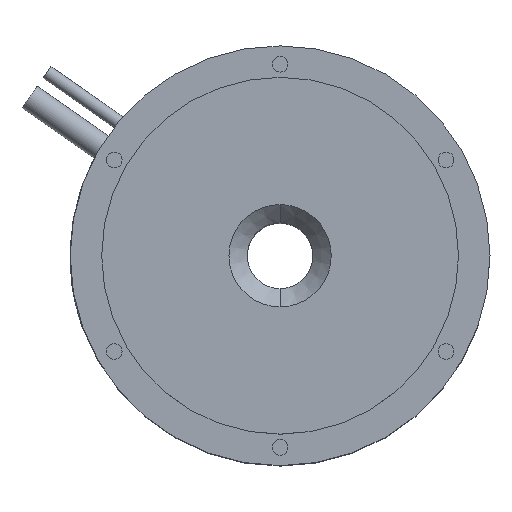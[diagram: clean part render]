
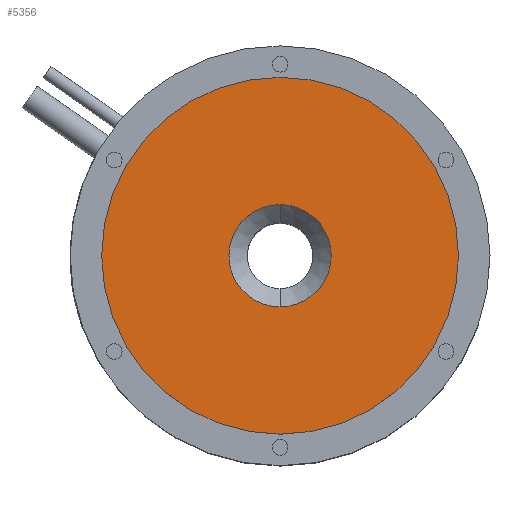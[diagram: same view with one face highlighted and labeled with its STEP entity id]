
A CAD part, top view. The second image highlights one B-rep face of the part: STEP entity #5356.
In plain terms, the highlighted planar face has unit normal (0, 0, 1).
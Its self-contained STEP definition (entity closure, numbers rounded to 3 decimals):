
#1282 = CARTESIAN_POINT ( 'NONE',  ( 0., 19.5, 118. ) ) ;
#1335 = CARTESIAN_POINT ( 'NONE',  ( 0., -19.5, 118. ) ) ;
#1412 = DIRECTION ( 'NONE',  ( 0., -1., 0. ) ) ;
#1413 = DIRECTION ( 'NONE',  ( 0., 0., -1. ) ) ;
#1414 = CARTESIAN_POINT ( 'NONE',  ( 0., 0., 118. ) ) ;
#1415 = AXIS2_PLACEMENT_3D ( 'NONE', #1414, #1413, #1412 ) ;
#1421 = CIRCLE ( 'NONE', #1415, 19.5 ) ;
#1694 = FACE_OUTER_BOUND ( 'NONE', #2693, .T. ) ;
#1754 = PLANE ( 'NONE',  #1770 ) ;
#1764 = DIRECTION ( 'NONE',  ( 0., -1., 0. ) ) ;
#1770 = AXIS2_PLACEMENT_3D ( 'NONE', #1774, #1773, #1764 ) ;
#1773 = DIRECTION ( 'NONE',  ( 0., 0., 1. ) ) ;
#1774 = CARTESIAN_POINT ( 'NONE',  ( 0., -12.5, 118. ) ) ;
#1775 = FACE_BOUND ( 'NONE', #5350, .T. ) ;
#2565 = ORIENTED_EDGE ( 'NONE', *, *, #3395, .T. ) ;
#2594 = VERTEX_POINT ( 'NONE', #5323 ) ;
#2598 = EDGE_CURVE ( 'NONE', #2594, #2599, #5306, .T. ) ;
#2599 = VERTEX_POINT ( 'NONE', #5313 ) ;
#2688 = EDGE_CURVE ( 'NONE', #3336, #3394, #4724, .T. ) ;
#2691 = EDGE_CURVE ( 'NONE', #2599, #2594, #4710, .T. ) ;
#2693 = EDGE_LOOP ( 'NONE', ( #2698, #2702 ) ) ;
#2698 = ORIENTED_EDGE ( 'NONE', *, *, #2598, .F. ) ;
#2702 = ORIENTED_EDGE ( 'NONE', *, *, #2691, .F. ) ;
#3336 = VERTEX_POINT ( 'NONE', #1282 ) ;
#3390 = ORIENTED_EDGE ( 'NONE', *, *, #2688, .T. ) ;
#3394 = VERTEX_POINT ( 'NONE', #1335 ) ;
#3395 = EDGE_CURVE ( 'NONE', #3394, #3336, #1421, .T. ) ;
#4708 = CARTESIAN_POINT ( 'NONE',  ( 0., 0., 118. ) ) ;
#4709 = AXIS2_PLACEMENT_3D ( 'NONE', #4708, #4970, #4978 ) ;
#4710 = CIRCLE ( 'NONE', #4709, 68. ) ;
#4712 = DIRECTION ( 'NONE',  ( 0., 0., -1. ) ) ;
#4713 = CARTESIAN_POINT ( 'NONE',  ( 0., 0., 118. ) ) ;
#4714 = AXIS2_PLACEMENT_3D ( 'NONE', #4713, #4712, #4717 ) ;
#4717 = DIRECTION ( 'NONE',  ( 0., -1., 0. ) ) ;
#4724 = CIRCLE ( 'NONE', #4714, 19.5 ) ;
#4970 = DIRECTION ( 'NONE',  ( 0., 0., -1. ) ) ;
#4978 = DIRECTION ( 'NONE',  ( 0., 1., 0. ) ) ;
#5269 = AXIS2_PLACEMENT_3D ( 'NONE', #5304, #5303, #5302 ) ;
#5302 = DIRECTION ( 'NONE',  ( 0., 1., 0. ) ) ;
#5303 = DIRECTION ( 'NONE',  ( 0., 0., -1. ) ) ;
#5304 = CARTESIAN_POINT ( 'NONE',  ( 0., 0., 118. ) ) ;
#5306 = CIRCLE ( 'NONE', #5269, 68. ) ;
#5313 = CARTESIAN_POINT ( 'NONE',  ( 0., -68., 118. ) ) ;
#5323 = CARTESIAN_POINT ( 'NONE',  ( 0., 68., 118. ) ) ;
#5350 = EDGE_LOOP ( 'NONE', ( #2565, #3390 ) ) ;
#5356 = ADVANCED_FACE ( 'NONE', ( #1775, #1694 ), #1754, .T. ) ;
